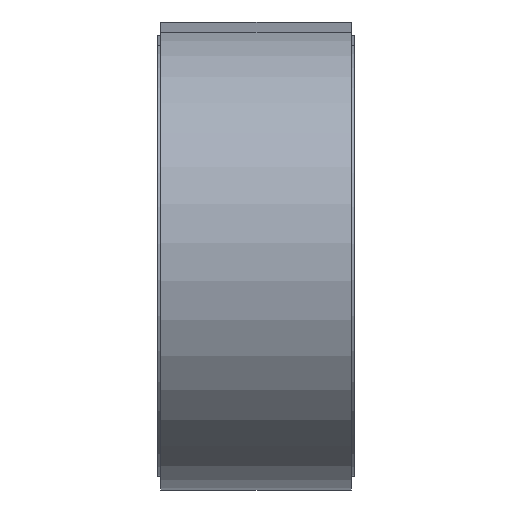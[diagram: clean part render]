
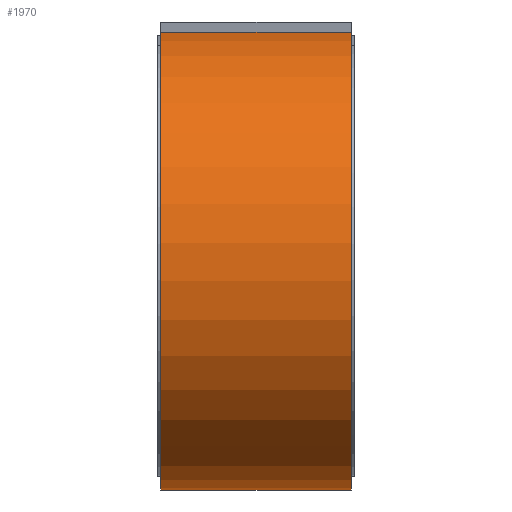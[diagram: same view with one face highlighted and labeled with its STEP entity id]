
A CAD part, left-side view. The second image highlights one B-rep face of the part: STEP entity #1970.
In plain terms, the highlighted cylindrical face has radius 76 mm (diameter 152 mm), a partial arc.
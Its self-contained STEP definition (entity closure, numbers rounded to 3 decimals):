
#210=FACE_OUTER_BOUND('',#340,.T.);
#340=EDGE_LOOP('',(#1667,#1668,#1669,#1670));
#501=LINE('',#3241,#675);
#507=LINE('',#3253,#681);
#675=VECTOR('',#2702,10.);
#681=VECTOR('',#2712,10.);
#777=CIRCLE('',#2180,76.);
#778=CIRCLE('',#2181,76.);
#937=VERTEX_POINT('',#3239);
#938=VERTEX_POINT('',#3240);
#941=VERTEX_POINT('',#3251);
#942=VERTEX_POINT('',#3252);
#1185=EDGE_CURVE('',#937,#938,#501,.T.);
#1191=EDGE_CURVE('',#941,#942,#507,.T.);
#1192=EDGE_CURVE('',#942,#938,#777,.T.);
#1193=EDGE_CURVE('',#941,#937,#778,.T.);
#1667=ORIENTED_EDGE('',*,*,#1191,.T.);
#1668=ORIENTED_EDGE('',*,*,#1192,.T.);
#1669=ORIENTED_EDGE('',*,*,#1185,.F.);
#1670=ORIENTED_EDGE('',*,*,#1193,.F.);
#1759=CYLINDRICAL_SURFACE('',#2179,76.);
#1970=ADVANCED_FACE('',(#210),#1759,.T.);
#2179=AXIS2_PLACEMENT_3D('',#3250,#2710,#2711);
#2180=AXIS2_PLACEMENT_3D('',#3254,#2713,#2714);
#2181=AXIS2_PLACEMENT_3D('',#3255,#2715,#2716);
#2702=DIRECTION('',(0.,1.,0.));
#2710=DIRECTION('center_axis',(0.,-1.,0.));
#2711=DIRECTION('ref_axis',(-0.966,0.,-0.259));
#2712=DIRECTION('',(0.,1.,0.));
#2713=DIRECTION('center_axis',(0.,-1.,0.));
#2714=DIRECTION('ref_axis',(-0.139,0.,0.99));
#2715=DIRECTION('center_axis',(0.,-1.,0.));
#2716=DIRECTION('ref_axis',(-0.139,0.,0.99));
#3239=CARTESIAN_POINT('',(-219.53,-31.5,-112.666));
#3240=CARTESIAN_POINT('',(-219.53,31.5,-112.666));
#3241=CARTESIAN_POINT('',(-219.53,31.5,-112.666));
#3250=CARTESIAN_POINT('Origin',(-248.,0.,-42.2));
#3251=CARTESIAN_POINT('',(-258.577,-31.5,33.06));
#3252=CARTESIAN_POINT('',(-258.577,31.5,33.06));
#3253=CARTESIAN_POINT('',(-258.577,31.5,33.06));
#3254=CARTESIAN_POINT('Origin',(-248.,31.5,-42.2));
#3255=CARTESIAN_POINT('Origin',(-248.,-31.5,-42.2));
